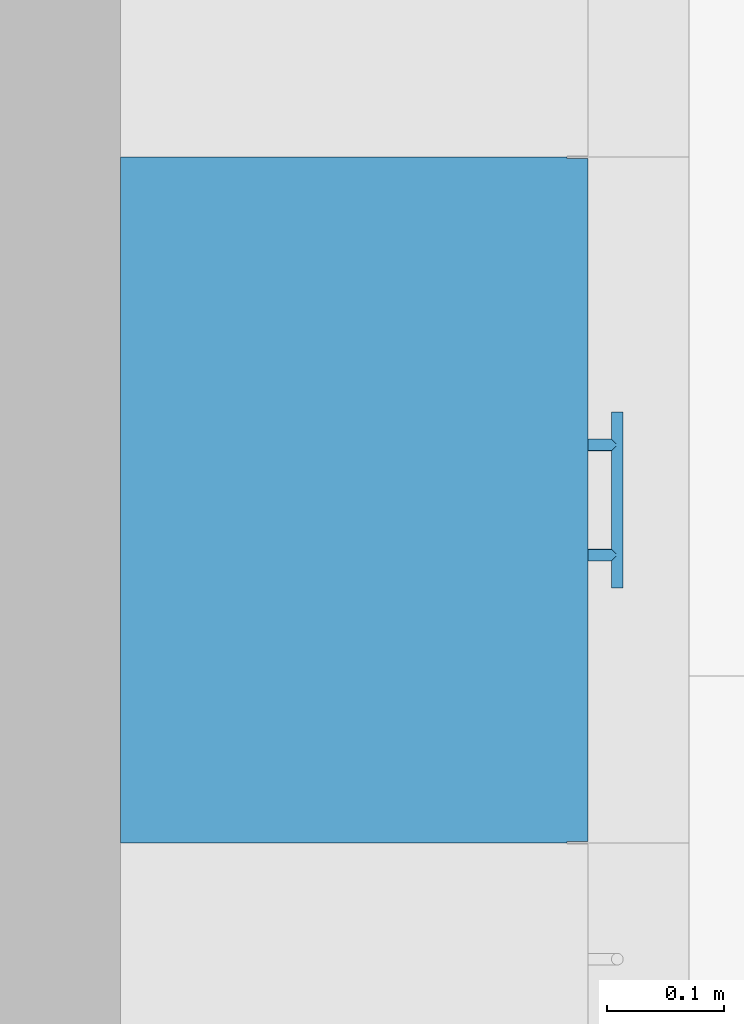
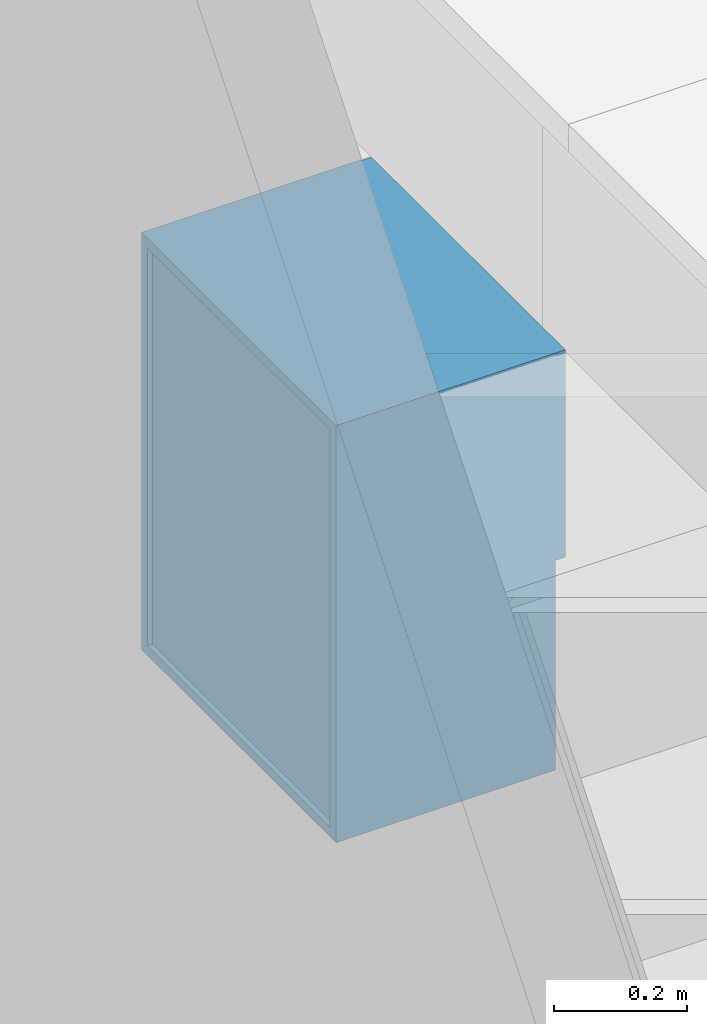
# One storey, part 47 of 68: 1 slab.
"""IFC2X3 building model written with IfcOpenShell, lengths in millimetres."""

import ifcopenshell
import ifcopenshell.guid

model = None  # the IFC model being written
_history = None  # IfcOwnerHistory: only IFC2X3 demands one
_inside = {}  # id of a spatial element -> (the spatial element, [elements in it])
_under = {}  # id of a project, library or spatial element -> (it, [spatial elements below it])
_declared = {}  # id of a project -> (the project, [libraries it declares])
_typed = {}  # id of a type object -> (the type object, [elements of that type])
_made_of = {}  # id of a material, layer set ... -> (it, [elements and type objects made of it])


def new_model(schema):
    """Start an empty IFC model of exactly this schema.

    Asked for "IFC4X3", IfcOpenShell would pick the latest addendum, in which some entities
    have other attributes; the version numbers below select the first issue.
    IFC2X3 requires an IfcOwnerHistory on every rooted entity: one is made here for all.
    """
    global model, _history
    if schema == "IFC4X3":
        model = ifcopenshell.file(schema_version=(4, 3, 0, 0))
    else:
        model = ifcopenshell.file(schema=schema)
    _inside.clear()
    _under.clear()
    _declared.clear()
    _typed.clear()
    _made_of.clear()
    _history = None
    if model.schema == "IFC2X3":
        org = make("IfcOrganization", Name="unknown")
        user = make(
            "IfcPersonAndOrganization",
            ThePerson=make("IfcPerson", FamilyName="unknown"),
            TheOrganization=org,
        )
        app = make(
            "IfcApplication",
            ApplicationDeveloper=org,
            Version="unknown",
            ApplicationFullName="unknown",
            ApplicationIdentifier="unknown",
        )
        _history = make(
            "IfcOwnerHistory",
            OwningUser=user,
            OwningApplication=app,
            ChangeAction="ADDED",
            CreationDate=0,
        )
    return model


def make(cls, **values):
    """One entity of the class cls with the attributes given. An attribute that is None is left unset."""
    return model.create_entity(
        cls, **{name: value for name, value in values.items() if value is not None}
    )


def entity(cls, *values):
    """Any entity or typed value of the class cls, its attributes in the order of the schema. None: left unset."""
    e = model.create_entity(cls)
    for i, value in enumerate(values):
        if value is not None:
            e[i] = value
    return e


def rooted(cls, **values):
    """An entity with a GlobalId (a new one), such as an element, a storey or a relation."""
    return make(cls, GlobalId=ifcopenshell.guid.new(), OwnerHistory=_history, **values)


def si_unit(unit_type, name, prefix=None):
    """IfcSIUnit, for example si_unit("LENGTHUNIT", "METRE", prefix="MILLI")."""
    return make("IfcSIUnit", UnitType=unit_type, Prefix=prefix, Name=name)


def converted_unit(unit_type, name, factor, base, dimensions=None, offset=None):
    """IfcConversionBasedUnit, such as the inch: factor (a typed value) times the base unit."""
    return make(
        "IfcConversionBasedUnit"
        if offset is None
        else "IfcConversionBasedUnitWithOffset",
        ConversionOffset=offset,
        Dimensions=None
        if dimensions is None
        else entity("IfcDimensionalExponents", *dimensions),
        UnitType=unit_type,
        Name=name,
        ConversionFactor=make(
            "IfcMeasureWithUnit", ValueComponent=factor, UnitComponent=base
        ),
    )


def derived_unit(unit_type, elements):
    """IfcDerivedUnit: a product of units, each with its exponent."""
    return make(
        "IfcDerivedUnit",
        Elements=[
            make("IfcDerivedUnitElement", Unit=unit, Exponent=power)
            for unit, power in elements
        ],
        UnitType=unit_type,
    )


def money_unit(currency):
    """IfcMonetaryUnit."""
    return make("IfcMonetaryUnit", Currency=currency)


def assignment(units):
    """IfcUnitAssignment: the units of a project."""
    return None if units is None else make("IfcUnitAssignment", Units=units)


def point(xyz):
    """IfcCartesianPoint."""
    return None if xyz is None else make("IfcCartesianPoint", Coordinates=xyz)


def direction(xyz):
    """IfcDirection."""
    return None if xyz is None else make("IfcDirection", DirectionRatios=xyz)


def frame(location, z_axis=None, x_axis=None):
    """IfcAxis2Placement3D, a coordinate frame: its origin and axes. An axis left out is left unset."""
    return make(
        "IfcAxis2Placement3D",
        Location=point(location),
        Axis=direction(z_axis),
        RefDirection=direction(x_axis),
    )


def origin_with_axes():
    """The frame at (0, 0, 0) with the z axis (0, 0, 1) and the x axis (1, 0, 0) written out."""
    return frame((0.0, 0.0, 0.0), z_axis=(0.0, 0.0, 1.0), x_axis=(1.0, 0.0, 0.0))


def place(relative_to, where):
    """IfcLocalPlacement: puts the frame where relative to a parent placement (None: the world)."""
    return make(
        "IfcLocalPlacement", PlacementRelTo=relative_to, RelativePlacement=where
    )


def context(
    kind, dimensions, precision=None, world=None, true_north=None, identifier=None
):
    """IfcGeometricRepresentationContext, for example the 3D "Model" context."""
    return make(
        "IfcGeometricRepresentationContext",
        ContextIdentifier=identifier,
        ContextType=kind,
        CoordinateSpaceDimension=dimensions,
        Precision=precision,
        WorldCoordinateSystem=world,
        TrueNorth=true_north,
    )


def subcontext(parent, identifier, kind, view, scale=None):
    """IfcGeometricRepresentationSubContext, for example "Body" below "Model"."""
    return make(
        "IfcGeometricRepresentationSubContext",
        ContextIdentifier=identifier,
        ContextType=kind,
        ParentContext=parent,
        TargetScale=scale,
        TargetView=view,
    )


def project(units=None, contexts=None):
    """IfcProject with its units and contexts."""
    return rooted(
        "IfcProject",
        Name="project",
        RepresentationContexts=contexts,
        UnitsInContext=assignment(units),
    )


def spatial(cls, under=None, at=None, **own):
    """A site, building, storey or space (cls), placed at a placement, below another one or the project."""
    s = rooted(cls, ObjectPlacement=at, **own)
    if under is not None:
        _under.setdefault(under.id(), (under, []))[1].append(s)
    return s


def faces_of(points, faces, orient=None, outer=None):
    """IfcFace entities. A face is a list of loops; a loop is a list of indices into points, from 0.

    orient and outer hold one flag for each loop. By default every Orientation is true, the
    first loop of a face is its IfcFaceOuterBound and the others are IfcFaceBound.
    """
    made = []
    for i, loops in enumerate(faces):
        bounds = []
        for j, loop in enumerate(loops):
            is_outer = j == 0 if outer is None else outer[i][j]
            bounds.append(
                make(
                    "IfcFaceOuterBound" if is_outer else "IfcFaceBound",
                    Bound=make("IfcPolyLoop", Polygon=[points[k] for k in loop]),
                    Orientation=True if orient is None else orient[i][j],
                )
            )
        made.append(make("IfcFace", Bounds=bounds))
    return made


def faceted_brep(points, faces, orient=None, outer=None, voids=None):
    """IfcFacetedBrep: a solid bounded by flat faces; with voids (closed shells), ...WithVoids."""
    shared = [point(p) for p in points]
    hull = make("IfcClosedShell", CfsFaces=faces_of(shared, faces, orient, outer))
    if voids is None:
        return make("IfcFacetedBrep", Outer=hull)
    return make(
        "IfcFacetedBrepWithVoids",
        Outer=hull,
        Voids=[
            make(cls, CfsFaces=faces_of(shared, fs, o, b)) for cls, fs, o, b in voids
        ],
    )


def shape(context_of_items, identifier, shape_type, items):
    """IfcShapeRepresentation: the items that make up one representation, for example the "Body"."""
    return make(
        "IfcShapeRepresentation",
        ContextOfItems=context_of_items,
        RepresentationIdentifier=identifier,
        RepresentationType=shape_type,
        Items=items,
    )


def made_of(thing, what):
    """Note that an element or type object is made of a material, layer set ...; save() writes the relation."""
    if what is not None:
        _made_of.setdefault(what.id(), (what, []))[1].append(thing)
    return thing


def type_object(cls, material=None, **own):
    """A type object (cls), such as IfcWallType, which elements share."""
    return made_of(rooted(cls, **own), material)


def element(
    cls,
    number,
    at=None,
    inside=None,
    cuts=None,
    type_object=None,
    material=None,
    context=None,
    identifier="Body",
    shape_type=None,
    held_by="IfcProductDefinitionShape",
    body=None,
    shapes=None,
    **own,
):
    """One element of the class cls, such as IfcWall. Its Tag is "e" and its number.

    at: its placement. inside: the storey or other place that contains it. cuts: it is an
    opening in that element (IfcRelVoidsElement). A single representation is given by context,
    identifier, shape_type and body (its items); several are given by shapes. held_by: the class
    of the entity that holds the representations. save() writes the other relations.
    """
    e = rooted(cls, Tag="e%d" % number, ObjectPlacement=at, **own)
    if body is not None:
        shapes = [shape(context, identifier, shape_type, body)]
    if shapes is not None:
        e.Representation = make(held_by, Representations=shapes)
    if inside is not None:
        _inside.setdefault(inside.id(), (inside, []))[1].append(e)
    if cuts is not None:
        rooted(
            "IfcRelVoidsElement", RelatingBuildingElement=cuts, RelatedOpeningElement=e
        )
    if type_object is not None:
        _typed.setdefault(type_object.id(), (type_object, []))[1].append(e)
    return made_of(e, material)


def aggregate(whole, parts):
    """IfcRelAggregates: a whole, such as a stair, and the parts it consists of."""
    return rooted("IfcRelAggregates", RelatingObject=whole, RelatedObjects=parts)


def save(model, path):
    """Write the relations noted so far, then the file.

    IfcRelAggregates (storeys below a building ...), IfcRelContainedInSpatialStructure (elements
    in a storey), IfcRelDefinesByType, IfcRelAssociatesMaterial and IfcRelDeclares: one each for
    every whole, place, type object, material and project.
    """
    for whole, parts in _under.values():
        aggregate(whole, parts)
    for where, things in _inside.values():
        rooted(
            "IfcRelContainedInSpatialStructure",
            RelatedElements=things,
            RelatingStructure=where,
        )
    for kind, things in _typed.values():
        rooted("IfcRelDefinesByType", RelatedObjects=things, RelatingType=kind)
    for what, things in _made_of.values():
        rooted("IfcRelAssociatesMaterial", RelatedObjects=things, RelatingMaterial=what)
    for by, libraries in _declared.values():
        rooted("IfcRelDeclares", RelatingContext=by, RelatedDefinitions=libraries)
    model.write(path)


model = new_model("IFC2X3")

# Units and contexts
model_context = context("Model", 3, precision=0.01, world=origin_with_axes(), true_north=direction((0.0, 1.0)))
body_context = subcontext(model_context, "Body", "Model", "MODEL_VIEW")
ifc_project = project(units=[si_unit("LENGTHUNIT", "METRE", prefix="MILLI"), si_unit("AREAUNIT", "SQUARE_METRE"), si_unit("VOLUMEUNIT", "CUBIC_METRE"), converted_unit("PLANEANGLEUNIT", "DEGREE", entity("IfcPlaneAngleMeasure", 0.0174532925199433), si_unit("PLANEANGLEUNIT", "RADIAN"), dimensions=[0, 0, 0, 0, 0, 0, 0]), money_unit("USD"), converted_unit("TIMEUNIT", "Year", entity("IfcTimeMeasure", 31557600.0), si_unit("TIMEUNIT", "SECOND"), dimensions=[0, 0, 1, 0, 0, 0, 0]), si_unit("MASSUNIT", "GRAM", prefix="KILO"), si_unit("THERMODYNAMICTEMPERATUREUNIT", "DEGREE_CELSIUS"), si_unit("LUMINOUSINTENSITYUNIT", "LUMEN"), si_unit("ENERGYUNIT", "JOULE", prefix="MEGA"), derived_unit("THERMALCONDUCTANCEUNIT", [(si_unit("POWERUNIT", "WATT"), 1), (si_unit("LENGTHUNIT", "METRE"), -1), (si_unit("THERMODYNAMICTEMPERATUREUNIT", "KELVIN"), -1)]), derived_unit("SPECIFICHEATCAPACITYUNIT", [(si_unit("ENERGYUNIT", "JOULE"), 1), (si_unit("MASSUNIT", "GRAM", prefix="KILO"), -1), (si_unit("THERMODYNAMICTEMPERATUREUNIT", "KELVIN"), -1)]), derived_unit("MASSDENSITYUNIT", [(si_unit("MASSUNIT", "GRAM", prefix="KILO"), 1), (si_unit("VOLUMEUNIT", "CUBIC_METRE"), -1)])], contexts=[model_context])

# Site, building, storey
site_placement = place(None, origin_with_axes())
site = spatial("IfcSite", under=ifc_project, at=site_placement, Name="Sitio", CompositionType="ELEMENT")
building_placement = place(site_placement, origin_with_axes())
building = spatial("IfcBuilding", under=site, at=building_placement, Name="Construcción", CompositionType="ELEMENT")
storey_placement = place(building_placement, origin_with_axes())
storey = spatial("IfcBuildingStorey", under=building, at=storey_placement, Name="PLANTA 1ª", CompositionType="ELEMENT", Elevation=0.0)

# Slab
slab_type = type_object("IfcSlabType", Name="Armario Mural 27", PredefinedType="FLOOR")
slab_placement = place(storey_placement, frame((-27904.84818028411, 371.0241762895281, -59.99999999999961), z_axis=(0.0, 0.0, 1.0), x_axis=(0.0, 1.0, 0.0)))
element("IfcSlab", 1, at=slab_placement, inside=storey, type_object=slab_type, Name="60.20.50 Armari", PredefinedType="FLOOR", context=body_context, shape_type="Brep", body=[
    faceted_brep([(18.0, -379.999999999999, 1872.833604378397), (565.8288796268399, -379.999999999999, 1872.833604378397), (565.8288796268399, -379.999999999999, 1890.833604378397), (18.0, -379.999999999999, 1890.833604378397), (18.0, -18.0, 1872.833604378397), (565.8288796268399, -18.0, 1872.833604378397), (565.8288796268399, -18.0, 1890.833604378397), (18.0, -18.0, 1890.833604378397)], [[[0, 1, 2, 3]], [[0, 4, 5, 1]], [[1, 5, 6, 2]], [[3, 2, 6, 7]], [[4, 0, 3, 7]], [[5, 4, 7, 6]]]),
    faceted_brep([(560.8288796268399, -379.999999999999, 1895.833604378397), (23.0, -379.999999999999, 1895.833604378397), (23.0, -18.00000000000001, 1895.833604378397), (560.8288796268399, -18.00000000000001, 1895.833604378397), (560.8288796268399, -379.999999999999, 1905.833604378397), (23.0, -379.999999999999, 1905.833604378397), (23.0, -18.00000000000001, 1905.833604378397), (560.8288796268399, -18.00000000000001, 1905.833604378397)], [[[0, 1, 2, 3]], [[1, 0, 4, 5]], [[2, 1, 5, 6]], [[3, 2, 6, 7]], [[0, 3, 7, 4]], [[5, 4, 7, 6]]]),
    faceted_brep([(43.0, -379.999999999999, 1905.833604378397), (23.0, -379.999999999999, 1905.833604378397), (23.0, -18.00000000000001, 1905.833604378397), (43.0, -18.00000000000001, 1905.833604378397), (43.0, -379.999999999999, 2240.667208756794), (23.0, -379.999999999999, 2240.667208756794), (23.0, -18.00000000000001, 2240.667208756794), (43.0, -18.00000000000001, 2240.667208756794)], [[[0, 1, 2, 3]], [[1, 0, 4, 5]], [[2, 1, 5, 6]], [[3, 2, 6, 7]], [[0, 3, 7, 4]], [[5, 4, 7, 6]]]),
    faceted_brep([(560.8288796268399, -379.999999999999, 1905.833604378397), (540.8288796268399, -379.999999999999, 1905.833604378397), (540.8288796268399, -18.00000000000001, 1905.833604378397), (560.8288796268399, -18.00000000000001, 1905.833604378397), (560.8288796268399, -379.999999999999, 2240.667208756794), (540.8288796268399, -379.999999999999, 2240.667208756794), (540.8288796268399, -18.00000000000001, 2240.667208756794), (560.8288796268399, -18.00000000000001, 2240.667208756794)], [[[0, 1, 2, 3]], [[1, 0, 4, 5]], [[2, 1, 5, 6]], [[3, 2, 6, 7]], [[0, 3, 7, 4]], [[5, 4, 7, 6]]]),
    faceted_brep([(540.8288796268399, -33.00000000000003, 1905.833604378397), (43.0, -33.00000000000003, 1905.833604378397), (43.0, -23.00000000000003, 1905.833604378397), (540.8288796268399, -23.00000000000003, 1905.833604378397), (540.8288796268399, -33.00000000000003, 2240.667208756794), (43.0, -33.00000000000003, 2240.667208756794), (43.0, -23.00000000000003, 2240.667208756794), (540.8288796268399, -23.00000000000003, 2240.667208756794)], [[[0, 1, 2, 3]], [[1, 0, 4, 5]], [[2, 1, 5, 6]], [[3, 2, 6, 7]], [[0, 3, 7, 4]], [[5, 4, 7, 6]]]),
    faceted_brep([(343.713478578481, -397.999999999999, 1971.882165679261), (343.4879029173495, -397.999999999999, 1971.040305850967), (343.1195668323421, -397.999999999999, 1970.250406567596), (342.6196620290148, -397.999999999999, 1969.536468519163), (342.0033778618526, -397.999999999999, 1968.920184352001), (341.28943981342, -397.999999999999, 1968.420279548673), (340.4995405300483, -397.999999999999, 1968.051943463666), (339.6576807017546, -397.999999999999, 1967.826367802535), (338.78943981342, -397.999999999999, 1967.750406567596), (337.9211989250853, -397.999999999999, 1967.826367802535), (337.0793390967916, -397.999999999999, 1968.051943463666), (336.28943981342, -397.999999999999, 1968.420279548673), (335.5755017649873, -397.999999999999, 1968.920184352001), (334.9592175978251, -397.999999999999, 1969.536468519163), (334.4593127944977, -397.999999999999, 1970.250406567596), (334.0909767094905, -397.999999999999, 1971.040305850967), (333.8654010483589, -397.999999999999, 1971.882165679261), (333.78943981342, -397.999999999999, 1972.750406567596), (333.8654010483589, -397.999999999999, 1973.61864745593), (334.0909767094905, -397.999999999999, 1974.460507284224), (334.4593127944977, -397.999999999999, 1975.250406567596), (334.9592175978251, -397.999999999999, 1975.964344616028), (335.5755017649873, -397.999999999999, 1976.58062878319), (336.28943981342, -397.999999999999, 1977.080533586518), (337.0793390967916, -397.999999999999, 1977.448869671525), (337.9211989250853, -397.999999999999, 1977.674445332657), (338.78943981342, -397.999999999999, 1977.750406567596), (339.6576807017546, -397.999999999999, 1977.674445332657), (340.4995405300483, -397.999999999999, 1977.448869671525), (341.28943981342, -397.999999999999, 1977.080533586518), (342.0033778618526, -397.999999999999, 1976.58062878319), (342.6196620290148, -397.999999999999, 1975.964344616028), (343.1195668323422, -397.999999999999, 1975.250406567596), (343.4879029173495, -397.999999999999, 1974.460507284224), (343.713478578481, -397.999999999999, 1973.61864745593), (343.78943981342, -397.999999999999, 1972.750406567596), (343.713478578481, -422.999999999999, 1971.882165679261), (343.4879029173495, -422.999999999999, 1971.040305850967), (343.1195668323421, -422.999999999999, 1970.250406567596), (342.6196620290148, -422.999999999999, 1969.536468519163), (342.0033778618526, -422.999999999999, 1968.920184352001), (341.28943981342, -422.999999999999, 1968.420279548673), (340.4995405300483, -422.999999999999, 1968.051943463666), (339.6576807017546, -422.999999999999, 1967.826367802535), (338.78943981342, -422.999999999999, 1967.750406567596), (337.9211989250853, -422.999999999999, 1967.826367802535), (337.0793390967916, -422.999999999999, 1968.051943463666), (336.28943981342, -422.999999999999, 1968.420279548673), (335.5755017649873, -422.999999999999, 1968.920184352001), (334.9592175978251, -422.999999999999, 1969.536468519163), (334.4593127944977, -422.999999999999, 1970.250406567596), (334.0909767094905, -422.999999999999, 1971.040305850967), (333.8654010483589, -422.999999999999, 1971.882165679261), (333.78943981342, -422.999999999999, 1972.750406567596), (333.8654010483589, -422.999999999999, 1973.61864745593), (334.0909767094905, -422.999999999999, 1974.460507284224), (334.4593127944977, -422.999999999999, 1975.250406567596), (334.9592175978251, -422.999999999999, 1975.964344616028), (335.5755017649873, -422.999999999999, 1976.58062878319), (336.28943981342, -422.999999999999, 1977.080533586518), (337.0793390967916, -422.999999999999, 1977.448869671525), (337.9211989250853, -422.999999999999, 1977.674445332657), (338.78943981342, -422.999999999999, 1977.750406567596), (339.6576807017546, -422.999999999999, 1977.674445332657), (340.4995405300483, -422.999999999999, 1977.448869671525), (341.28943981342, -422.999999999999, 1977.080533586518), (342.0033778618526, -422.999999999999, 1976.58062878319), (342.6196620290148, -422.999999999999, 1975.964344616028), (343.1195668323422, -422.999999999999, 1975.250406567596), (343.4879029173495, -422.999999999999, 1974.460507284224), (343.713478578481, -422.999999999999, 1973.61864745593), (343.78943981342, -422.999999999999, 1972.750406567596)], [[[0, 1, 2, 3, 4, 5, 6, 7, 8, 9, 10, 11, 12, 13, 14, 15, 16, 17, 18, 19, 20, 21, 22, 23, 24, 25, 26, 27, 28, 29, 30, 31, 32, 33, 34, 35]], [[1, 0, 36, 37]], [[2, 1, 37, 38]], [[3, 2, 38, 39]], [[4, 3, 39, 40]], [[5, 4, 40, 41]], [[6, 5, 41, 42]], [[7, 6, 42, 43]], [[8, 7, 43, 44]], [[9, 8, 44, 45]], [[10, 9, 45, 46]], [[11, 10, 46, 47]], [[12, 11, 47, 48]], [[13, 12, 48, 49]], [[14, 13, 49, 50]], [[15, 14, 50, 51]], [[16, 15, 51, 52]], [[17, 16, 52, 53]], [[18, 17, 53, 54]], [[19, 18, 54, 55]], [[20, 19, 55, 56]], [[21, 20, 56, 57]], [[22, 21, 57, 58]], [[23, 22, 58, 59]], [[24, 23, 59, 60]], [[25, 24, 60, 61]], [[26, 25, 61, 62]], [[27, 26, 62, 63]], [[28, 27, 63, 64]], [[29, 28, 64, 65]], [[30, 29, 65, 66]], [[31, 30, 66, 67]], [[32, 31, 67, 68]], [[33, 32, 68, 69]], [[34, 33, 69, 70]], [[35, 34, 70, 71]], [[0, 35, 71, 36]], [[36, 71, 70, 69, 68, 67, 66, 65, 64, 63, 62, 61, 60, 59, 58, 57, 56, 55, 54, 53, 52, 51, 50, 49, 48, 47, 46, 45, 44, 43, 42, 41, 40, 39, 38, 37]]]),
    faceted_brep([(240.1154010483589, -397.999999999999, 1971.882165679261), (240.03943981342, -397.999999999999, 1972.750406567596), (240.1154010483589, -397.999999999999, 1973.61864745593), (240.3409767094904, -397.999999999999, 1974.460507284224), (240.7093127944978, -397.999999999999, 1975.250406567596), (241.2092175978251, -397.999999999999, 1975.964344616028), (241.8255017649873, -397.999999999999, 1976.58062878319), (242.53943981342, -397.999999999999, 1977.080533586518), (243.3293390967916, -397.999999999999, 1977.448869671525), (244.1711989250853, -397.999999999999, 1977.674445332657), (245.03943981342, -397.999999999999, 1977.750406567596), (245.9076807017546, -397.999999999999, 1977.674445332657), (246.7495405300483, -397.999999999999, 1977.448869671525), (247.53943981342, -397.999999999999, 1977.080533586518), (248.2533778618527, -397.999999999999, 1976.58062878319), (248.8696620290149, -397.999999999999, 1975.964344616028), (249.3695668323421, -397.999999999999, 1975.250406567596), (249.7379029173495, -397.999999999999, 1974.460507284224), (249.963478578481, -397.999999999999, 1973.61864745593), (250.03943981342, -397.999999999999, 1972.750406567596), (249.963478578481, -397.999999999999, 1971.882165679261), (249.7379029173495, -397.999999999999, 1971.040305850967), (249.3695668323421, -397.999999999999, 1970.250406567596), (248.8696620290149, -397.999999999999, 1969.536468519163), (248.2533778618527, -397.999999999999, 1968.920184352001), (247.53943981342, -397.999999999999, 1968.420279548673), (246.7495405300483, -397.999999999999, 1968.051943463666), (245.9076807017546, -397.999999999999, 1967.826367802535), (245.03943981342, -397.999999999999, 1967.750406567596), (244.1711989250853, -397.999999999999, 1967.826367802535), (243.3293390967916, -397.999999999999, 1968.051943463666), (242.53943981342, -397.999999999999, 1968.420279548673), (241.8255017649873, -397.999999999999, 1968.920184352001), (241.2092175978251, -397.999999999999, 1969.536468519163), (240.7093127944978, -397.999999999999, 1970.250406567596), (240.3409767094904, -397.999999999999, 1971.040305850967), (240.1154010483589, -422.999999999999, 1971.882165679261), (240.03943981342, -422.999999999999, 1972.750406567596), (240.1154010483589, -422.999999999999, 1973.61864745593), (240.3409767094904, -422.999999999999, 1974.460507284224), (240.7093127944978, -422.999999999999, 1975.250406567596), (241.2092175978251, -422.999999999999, 1975.964344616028), (241.8255017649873, -422.999999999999, 1976.58062878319), (242.53943981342, -422.999999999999, 1977.080533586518), (243.3293390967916, -422.999999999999, 1977.448869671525), (244.1711989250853, -422.999999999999, 1977.674445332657), (245.03943981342, -422.999999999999, 1977.750406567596), (245.9076807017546, -422.999999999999, 1977.674445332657), (246.7495405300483, -422.999999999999, 1977.448869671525), (247.53943981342, -422.999999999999, 1977.080533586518), (248.2533778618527, -422.999999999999, 1976.58062878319), (248.8696620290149, -422.999999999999, 1975.964344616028), (249.3695668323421, -422.999999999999, 1975.250406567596), (249.7379029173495, -422.999999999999, 1974.460507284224), (249.963478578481, -422.999999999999, 1973.61864745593), (250.03943981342, -422.999999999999, 1972.750406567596), (249.963478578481, -422.999999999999, 1971.882165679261), (249.7379029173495, -422.999999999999, 1971.040305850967), (249.3695668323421, -422.999999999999, 1970.250406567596), (248.8696620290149, -422.999999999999, 1969.536468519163), (248.2533778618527, -422.999999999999, 1968.920184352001), (247.53943981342, -422.999999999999, 1968.420279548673), (246.7495405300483, -422.999999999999, 1968.051943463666), (245.9076807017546, -422.999999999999, 1967.826367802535), (245.03943981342, -422.999999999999, 1967.750406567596), (244.1711989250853, -422.999999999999, 1967.826367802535), (243.3293390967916, -422.999999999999, 1968.051943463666), (242.53943981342, -422.999999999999, 1968.420279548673), (241.8255017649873, -422.999999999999, 1968.920184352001), (241.2092175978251, -422.999999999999, 1969.536468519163), (240.7093127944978, -422.999999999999, 1970.250406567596), (240.3409767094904, -422.999999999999, 1971.040305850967)], [[[0, 1, 2, 3, 4, 5, 6, 7, 8, 9, 10, 11, 12, 13, 14, 15, 16, 17, 18, 19, 20, 21, 22, 23, 24, 25, 26, 27, 28, 29, 30, 31, 32, 33, 34, 35]], [[0, 36, 37, 1]], [[1, 37, 38, 2]], [[2, 38, 39, 3]], [[3, 39, 40, 4]], [[4, 40, 41, 5]], [[5, 41, 42, 6]], [[6, 42, 43, 7]], [[7, 43, 44, 8]], [[8, 44, 45, 9]], [[9, 45, 46, 10]], [[10, 46, 47, 11]], [[11, 47, 48, 12]], [[12, 48, 49, 13]], [[13, 49, 50, 14]], [[14, 50, 51, 15]], [[15, 51, 52, 16]], [[16, 52, 53, 17]], [[17, 53, 54, 18]], [[18, 54, 55, 19]], [[19, 55, 56, 20]], [[20, 56, 57, 21]], [[21, 57, 58, 22]], [[22, 58, 59, 23]], [[23, 59, 60, 24]], [[24, 60, 61, 25]], [[25, 61, 62, 26]], [[26, 62, 63, 27]], [[27, 63, 64, 28]], [[28, 64, 65, 29]], [[29, 65, 66, 30]], [[30, 66, 67, 31]], [[31, 67, 68, 32]], [[32, 68, 69, 33]], [[33, 69, 70, 34]], [[34, 70, 71, 35]], [[35, 71, 36, 0]], [[36, 71, 70, 69, 68, 67, 66, 65, 64, 63, 62, 61, 60, 59, 58, 57, 56, 55, 54, 53, 52, 51, 50, 49, 48, 47, 46, 45, 44, 43, 42, 41, 40, 39, 38, 37]]]),
    faceted_brep([(216.91443981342, -418.075961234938, 1971.882165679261), (216.91443981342, -418.3015368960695, 1971.040305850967), (216.91443981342, -418.6698729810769, 1970.250406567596), (216.91443981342, -419.1697777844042, 1969.536468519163), (216.91443981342, -419.7860619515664, 1968.920184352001), (216.91443981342, -420.499999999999, 1968.420279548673), (216.91443981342, -421.2898992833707, 1968.051943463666), (216.91443981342, -422.1317591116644, 1967.826367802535), (216.91443981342, -422.999999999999, 1967.750406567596), (216.91443981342, -423.8682408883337, 1967.826367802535), (216.91443981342, -424.7101007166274, 1968.051943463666), (216.91443981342, -425.499999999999, 1968.420279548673), (216.91443981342, -426.2139380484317, 1968.920184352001), (216.91443981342, -426.8302222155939, 1969.536468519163), (216.91443981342, -427.3301270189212, 1970.250406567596), (216.91443981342, -427.6984631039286, 1971.040305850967), (216.91443981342, -427.9240387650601, 1971.882165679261), (216.91443981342, -427.999999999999, 1972.750406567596), (216.91443981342, -427.9240387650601, 1973.61864745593), (216.91443981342, -427.6984631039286, 1974.460507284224), (216.91443981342, -427.3301270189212, 1975.250406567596), (216.91443981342, -426.8302222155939, 1975.964344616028), (216.91443981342, -426.2139380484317, 1976.58062878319), (216.91443981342, -425.499999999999, 1977.080533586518), (216.91443981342, -424.7101007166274, 1977.448869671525), (216.91443981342, -423.8682408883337, 1977.674445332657), (216.91443981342, -422.999999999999, 1977.750406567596), (216.91443981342, -422.1317591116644, 1977.674445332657), (216.91443981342, -421.2898992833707, 1977.448869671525), (216.91443981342, -420.499999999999, 1977.080533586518), (216.91443981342, -419.7860619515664, 1976.58062878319), (216.91443981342, -419.1697777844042, 1975.964344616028), (216.91443981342, -418.6698729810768, 1975.250406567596), (216.91443981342, -418.3015368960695, 1974.460507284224), (216.91443981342, -418.075961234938, 1973.61864745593), (216.91443981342, -417.999999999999, 1972.750406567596), (366.91443981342, -418.075961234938, 1971.882165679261), (366.91443981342, -418.3015368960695, 1971.040305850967), (366.91443981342, -418.6698729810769, 1970.250406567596), (366.91443981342, -419.1697777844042, 1969.536468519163), (366.91443981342, -419.7860619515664, 1968.920184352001), (366.91443981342, -420.499999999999, 1968.420279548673), (366.91443981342, -421.2898992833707, 1968.051943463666), (366.91443981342, -422.1317591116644, 1967.826367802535), (366.91443981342, -422.999999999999, 1967.750406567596), (366.91443981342, -423.8682408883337, 1967.826367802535), (366.91443981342, -424.7101007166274, 1968.051943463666), (366.91443981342, -425.499999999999, 1968.420279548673), (366.91443981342, -426.2139380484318, 1968.920184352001), (366.91443981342, -426.8302222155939, 1969.536468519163), (366.91443981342, -427.3301270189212, 1970.250406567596), (366.91443981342, -427.6984631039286, 1971.040305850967), (366.91443981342, -427.9240387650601, 1971.882165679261), (366.91443981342, -427.999999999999, 1972.750406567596), (366.91443981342, -427.9240387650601, 1973.61864745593), (366.91443981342, -427.6984631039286, 1974.460507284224), (366.91443981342, -427.3301270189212, 1975.250406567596), (366.91443981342, -426.8302222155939, 1975.964344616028), (366.91443981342, -426.2139380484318, 1976.58062878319), (366.91443981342, -425.499999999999, 1977.080533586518), (366.91443981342, -424.7101007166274, 1977.448869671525), (366.91443981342, -423.8682408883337, 1977.674445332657), (366.91443981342, -422.999999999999, 1977.750406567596), (366.91443981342, -422.1317591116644, 1977.674445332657), (366.91443981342, -421.2898992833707, 1977.448869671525), (366.91443981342, -420.499999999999, 1977.080533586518), (366.91443981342, -419.7860619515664, 1976.58062878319), (366.91443981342, -419.1697777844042, 1975.964344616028), (366.91443981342, -418.6698729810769, 1975.250406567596), (366.91443981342, -418.3015368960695, 1974.460507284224), (366.91443981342, -418.075961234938, 1973.61864745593), (366.91443981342, -417.999999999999, 1972.750406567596)], [[[0, 1, 2, 3, 4, 5, 6, 7, 8, 9, 10, 11, 12, 13, 14, 15, 16, 17, 18, 19, 20, 21, 22, 23, 24, 25, 26, 27, 28, 29, 30, 31, 32, 33, 34, 35]], [[1, 0, 36, 37]], [[2, 1, 37, 38]], [[3, 2, 38, 39]], [[4, 3, 39, 40]], [[5, 4, 40, 41]], [[6, 5, 41, 42]], [[7, 6, 42, 43]], [[8, 7, 43, 44]], [[9, 8, 44, 45]], [[10, 9, 45, 46]], [[11, 10, 46, 47]], [[12, 11, 47, 48]], [[13, 12, 48, 49]], [[14, 13, 49, 50]], [[15, 14, 50, 51]], [[16, 15, 51, 52]], [[17, 16, 52, 53]], [[18, 17, 53, 54]], [[19, 18, 54, 55]], [[20, 19, 55, 56]], [[21, 20, 56, 57]], [[22, 21, 57, 58]], [[23, 22, 58, 59]], [[24, 23, 59, 60]], [[25, 24, 60, 61]], [[26, 25, 61, 62]], [[27, 26, 62, 63]], [[28, 27, 63, 64]], [[29, 28, 64, 65]], [[30, 29, 65, 66]], [[31, 30, 66, 67]], [[32, 31, 67, 68]], [[33, 32, 68, 69]], [[34, 33, 69, 70]], [[35, 34, 70, 71]], [[0, 35, 71, 36]], [[36, 71, 70, 69, 68, 67, 66, 65, 64, 63, 62, 61, 60, 59, 58, 57, 56, 55, 54, 53, 52, 51, 50, 49, 48, 47, 46, 45, 44, 43, 42, 41, 40, 39, 38, 37]]]),
    faceted_brep([(1.0, -379.999999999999, 1882.833604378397), (582.8288796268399, -379.999999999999, 1882.833604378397), (582.8288796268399, -397.999999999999, 1882.833604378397), (1.0, -397.999999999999, 1882.833604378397), (1.0, -379.999999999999, 2262.667208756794), (582.8288796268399, -379.999999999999, 2262.667208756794), (582.8288796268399, -397.999999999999, 2262.667208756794), (1.0, -397.999999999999, 2262.667208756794)], [[[0, 1, 2, 3]], [[0, 4, 5, 1]], [[1, 5, 6, 2]], [[3, 2, 6, 7]], [[4, 0, 3, 7]], [[5, 4, 7, 6]]]),
    faceted_brep([(18.0, -379.999999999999, 1500.0), (565.8288796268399, -379.999999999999, 1500.0), (565.8288796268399, -379.999999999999, 1518.0), (18.0, -379.999999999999, 1518.0), (18.0, 0.0, 1500.0), (565.8288796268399, 0.0, 1500.0), (565.8288796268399, 0.0, 1518.0), (18.0, 0.0, 1518.0)], [[[0, 1, 2, 3]], [[0, 4, 5, 1]], [[1, 5, 6, 2]], [[3, 2, 6, 7]], [[4, 0, 3, 7]], [[5, 4, 7, 6]]]),
    faceted_brep([(18.0, -379.999999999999, 2245.667208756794), (565.8288796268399, -379.999999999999, 2245.667208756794), (565.8288796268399, -379.999999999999, 2263.667208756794), (18.0, -379.999999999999, 2263.667208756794), (18.0, 0.0, 2245.667208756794), (565.8288796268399, 0.0, 2245.667208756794), (565.8288796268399, 0.0, 2263.667208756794), (18.0, 0.0, 2263.667208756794)], [[[0, 1, 2, 3]], [[0, 4, 5, 1]], [[1, 5, 6, 2]], [[3, 2, 6, 7]], [[4, 0, 3, 7]], [[5, 4, 7, 6]]]),
    faceted_brep([(0.0, 0.0, 1500.0), (0.0, -379.999999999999, 1500.0), (0.0, -379.999999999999, 2263.667208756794), (0.0, 0.0, 2263.667208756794), (18.0, 0.0, 1500.0), (18.0, -379.999999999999, 1500.0), (18.0, -379.999999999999, 2263.667208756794), (18.0, 0.0, 2263.667208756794)], [[[0, 1, 2, 3]], [[0, 4, 5, 1]], [[1, 5, 6, 2]], [[3, 2, 6, 7]], [[4, 0, 3, 7]], [[5, 4, 7, 6]]]),
    faceted_brep([(583.8288796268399, -379.999999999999, 1500.0), (583.8288796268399, 0.0, 1500.0), (583.8288796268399, 0.0, 2263.667208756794), (583.8288796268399, -379.999999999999, 2263.667208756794), (565.8288796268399, -379.999999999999, 1500.0), (565.8288796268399, 0.0, 1500.0), (565.8288796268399, 0.0, 2263.667208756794), (565.8288796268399, -379.999999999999, 2263.667208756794)], [[[0, 1, 2, 3]], [[0, 4, 5, 1]], [[1, 5, 6, 2]], [[3, 2, 6, 7]], [[4, 0, 3, 7]], [[5, 4, 7, 6]]]),
    faceted_brep([(565.8288796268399, -9.0, 1518.0), (18.00000000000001, -9.0, 1518.0), (18.00000000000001, -9.0, 2245.667208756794), (565.8288796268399, -9.0, 2245.667208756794), (565.8288796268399, -18.0, 1518.0), (18.00000000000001, -18.0, 1518.0), (18.00000000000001, -18.0, 2245.667208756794), (565.8288796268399, -18.0, 2245.667208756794)], [[[0, 1, 2, 3]], [[0, 4, 5, 1]], [[1, 5, 6, 2]], [[3, 2, 6, 7]], [[4, 0, 3, 7]], [[5, 4, 7, 6]]]),
])

save(model, "model.ifc")
